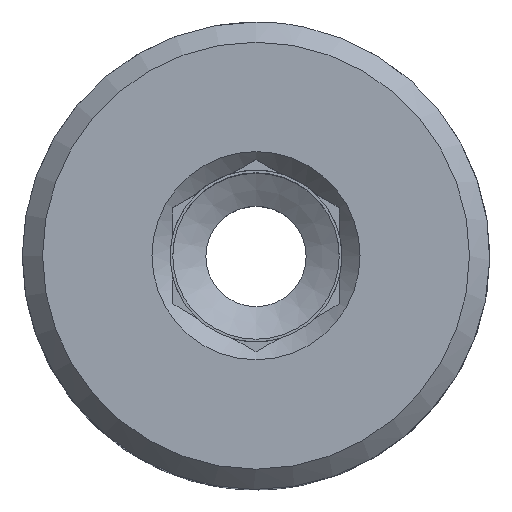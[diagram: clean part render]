
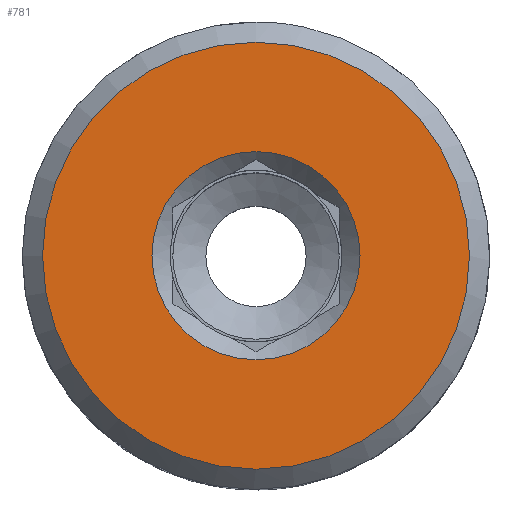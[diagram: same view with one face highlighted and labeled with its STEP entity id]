
A CAD part, top view. The second image highlights one B-rep face of the part: STEP entity #781.
In plain terms, the highlighted planar face has unit normal (0, 0, 1) as drawn and (0, 0, -1) by its records, which use the part's own axes.
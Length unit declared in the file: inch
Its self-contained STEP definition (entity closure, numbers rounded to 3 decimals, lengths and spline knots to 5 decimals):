
#75=PLANE('',#915);
#184=FACE_BOUND('',#311,.T.);
#241=FACE_OUTER_BOUND('',#310,.T.);
#310=EDGE_LOOP('',(#721));
#311=EDGE_LOOP('',(#722));
#314=CIRCLE('',#835,0.0975);
#342=CIRCLE('',#889,0.2);
#355=VERTEX_POINT('',#1158);
#417=VERTEX_POINT('',#1559);
#428=EDGE_CURVE('',#355,#355,#314,.T.);
#515=EDGE_CURVE('',#417,#417,#342,.T.);
#721=ORIENTED_EDGE('',*,*,#515,.T.);
#722=ORIENTED_EDGE('',*,*,#428,.T.);
#781=ADVANCED_FACE('',(#241,#184),#75,.T.);
#835=AXIS2_PLACEMENT_3D('',#1159,#933,#934);
#889=AXIS2_PLACEMENT_3D('',#1560,#1078,#1079);
#915=AXIS2_PLACEMENT_3D('',#1595,#1131,#1132);
#933=DIRECTION('center_axis',(0.,0.,1.));
#934=DIRECTION('ref_axis',(-1.,0.,0.));
#1078=DIRECTION('center_axis',(0.,0.,-1.));
#1079=DIRECTION('ref_axis',(0.,1.,0.));
#1131=DIRECTION('center_axis',(0.,0.,-1.));
#1132=DIRECTION('ref_axis',(-1.,0.,0.));
#1158=CARTESIAN_POINT('',(-0.0975,0.,0.));
#1159=CARTESIAN_POINT('Origin',(0.,0.,0.));
#1559=CARTESIAN_POINT('',(0.,0.2,0.));
#1560=CARTESIAN_POINT('Origin',(0.,0.,0.));
#1595=CARTESIAN_POINT('Origin',(0.,0.,0.));
